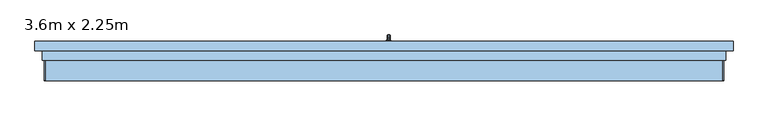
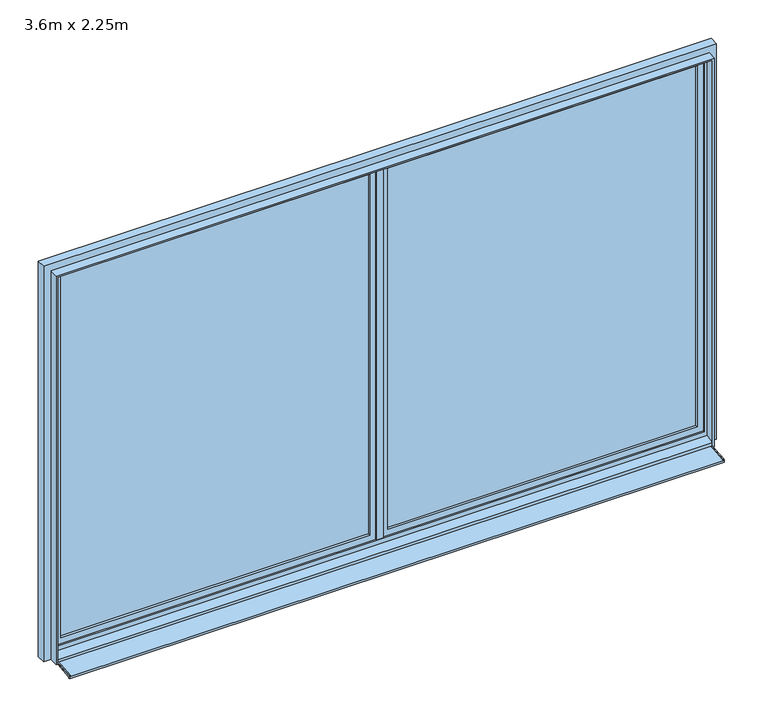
"""IFC4 building model written with IfcOpenShell, lengths in millimetres: window geometry, PF 2 Vantaux - Droits : 3.6m x 2.25m."""

from ifc_helpers import new_model, si_unit, point, frame, frame_2d, origin, place, context, project, spatial, polyline, circle_curve, trimmed, segment, composite_curve, outline, extrude, faceted_brep, source, transform, mapped, element, save


def window_3_6m_x_2_25m_d801bdb7(model_context):
    return source(origin(), model_context, "Body", "SolidModel", [
        faceted_brep([(30.6460097, 106.0, 1122.0339292), (19.3539903, 106.0, 1122.0339292), (17.9660708, 106.0, 1120.6460097), (17.9660708, 106.0, 1109.3323012), (19.3323012, 106.0, 1107.9660708), (30.6676988, 106.0, 1107.9660708), (32.0339292, 106.0, 1109.3323012), (32.0339292, 106.0, 1120.6460097), (32.0339292, 118.3386538, 1120.6460097), (30.6460097, 118.9135489, 1122.0339292), (32.0339292, 113.6523623, 1109.3323012), (32.0339292, 120.3323012, 1102.6523623), (32.0339292, 120.3323012, 1020.0), (32.0339292, 131.6460097, 1020.0), (32.0339292, 131.6460097, 1107.3386538), (30.6676988, 113.0864511, 1107.9660708), (19.3323012, 113.0864511, 1107.9660708), (17.9660708, 113.6523623, 1109.3323012), (17.9660708, 118.3386538, 1120.6460097), (17.9660708, 131.6460097, 1107.3386538), (17.9660708, 131.6460097, 1020.0), (17.9660708, 120.3323012, 1020.0), (17.9660708, 120.3323012, 1102.6523623), (19.3539903, 118.9135489, 1122.0339292), (30.6460097, 133.0339292, 1107.9135489), (30.6676988, 118.9660708, 1102.0864511), (19.3323012, 118.9660708, 1102.0864511), (19.3539903, 133.0339292, 1107.9135489), (30.6460097, 133.0339292, 1020.0), (30.6676988, 118.9660708, 1020.0), (19.3323012, 118.9660708, 1020.0), (19.3539903, 133.0339292, 1020.0)], [[[0, 1, 2, 3, 4, 5, 6, 7]], [[7, 8, 9, 0]], [[6, 10, 11, 12, 13, 14, 8, 7]], [[5, 15, 10, 6]], [[4, 16, 15, 5]], [[3, 17, 16, 4]], [[2, 18, 19, 20, 21, 22, 17, 3]], [[1, 23, 18, 2]], [[0, 9, 23, 1]], [[8, 14, 24, 9]], [[15, 25, 11, 10]], [[16, 26, 25, 15]], [[17, 22, 26, 16]], [[23, 27, 19, 18]], [[9, 24, 27, 23]], [[28, 13, 12, 29, 30, 21, 20, 31]], [[14, 13, 28, 24]], [[25, 29, 12, 11]], [[26, 30, 29, 25]], [[22, 21, 30, 26]], [[27, 31, 20, 19]], [[24, 28, 31, 27]]]),
        extrude(outline(polyline([(1140.0, 32.0), (1140.0, 18.0), (1135.0, 13.0), (1065.0, 13.0), (1060.0, 18.0), (1060.0, 32.0), (1065.0, 37.0), (1135.0, 37.0), (1140.0, 32.0)])), frame((0.0, 100.0, 0.0), z_axis=(0.0, 1.0, 0.0), x_axis=(0.0, 0.0, 1.0)), (0.0, 0.0, 1.0), 6.0),
        extrude(outline(polyline([(-110.0288776, 26.588626), (15.0, 39.7296906), (15.0, 50.0), (20.0, 50.0), (20.0, 35.0), (-105.0288776, 21.8589354), (-105.0288776, 16.0359447), (-110.0288776, 15.5104235), (-110.0288776, 26.588626)])), frame((-1800.0, 0.0, 0.0), z_axis=(1.0, 0.0, 0.0), x_axis=(0.0, 1.0, 0.0)), (0.0, 0.0, 1.0), 3600.0),
        extrude(outline(composite_curve([segment(polyline([(-110.0288776, 26.588626), (-110.0288776, 28.0145512)]), True, "CONTINUOUS"), segment(trimmed(circle_curve(frame_2d((-106.0288776, 28.0145512)), 4.0), [point((-110.0288776, 28.0145512))], [point((-106.4469915, 31.9926388))], False, "CARTESIAN"), True, "CONTINUOUS"), segment(polyline([(-106.4469915, 31.9926388), (15.0, 44.757232), (15.0, 39.7296906), (-110.0288776, 26.588626)]), True, "CONTINUOUS")], self_intersect=False)), frame((-1800.0, 0.0, 0.0), z_axis=(1.0, 0.0, 0.0), x_axis=(0.0, 1.0, 0.0)), (0.0, 0.0, 1.0), 5.0),
        extrude(outline(composite_curve([segment(polyline([(-110.0288776, 26.588626), (-110.0288776, 28.0145512)]), True, "CONTINUOUS"), segment(trimmed(circle_curve(frame_2d((-106.0288776, 28.0145512)), 4.0), [point((-110.0288776, 28.0145512))], [point((-106.4469915, 31.9926388))], False, "CARTESIAN"), True, "CONTINUOUS"), segment(polyline([(-106.4469915, 31.9926388), (15.0, 44.757232), (15.0, 39.7296906), (-110.0288776, 26.588626)]), True, "CONTINUOUS")], self_intersect=False)), frame((1795.0, 0.0, 0.0), z_axis=(1.0, 0.0, 0.0), x_axis=(0.0, 1.0, 0.0)), (0.0, 0.0, 1.0), 5.0),
        extrude(outline(polyline([(85.0, -1800.0), (85.0, 0.0), (2285.0, 0.0), (2285.0, -1800.0), (85.0, -1800.0)]), holes=[polyline([(135.0, -50.0), (135.0, -1750.0), (2235.0, -1750.0), (2235.0, -50.0), (135.0, -50.0)])]), frame((0.0, 60.0, 0.0), z_axis=(0.0, 1.0, 0.0), x_axis=(0.0, 0.0, 1.0)), (0.0, 0.0, 1.0), 40.0),
        extrude(outline(polyline([(50.0, 74.0), (50.0, 86.0), (1750.0, 86.0), (1750.0, 74.0), (50.0, 74.0)])), frame((0.0, 0.0, 135.0), z_axis=(0.0, 0.0, 1.0), x_axis=(1.0, 0.0, 0.0)), (0.0, 0.0, 1.0), 2100.0),
        extrude(outline(polyline([(-1750.0, 74.0), (-1750.0, 86.0), (-50.0, 86.0), (-50.0, 74.0), (-1750.0, 74.0)])), frame((0.0, 0.0, 135.0), z_axis=(0.0, 0.0, 1.0), x_axis=(1.0, 0.0, 0.0)), (0.0, 0.0, 1.0), 2100.0),
        extrude(outline(polyline([(85.0, 0.0), (85.0, 1800.0), (2285.0, 1800.0), (2285.0, 0.0), (85.0, 0.0)]), holes=[polyline([(135.0, 1750.0), (135.0, 50.0), (2235.0, 50.0), (2235.0, 1750.0), (135.0, 1750.0)])]), frame((0.0, 60.0, 0.0), z_axis=(0.0, 1.0, 0.0), x_axis=(0.0, 0.0, 1.0)), (0.0, 0.0, 1.0), 40.0),
        extrude(outline(polyline([(35.0, -1800.0), (2285.0, -1800.0), (2285.0, 1800.0), (35.0, 1800.0), (35.0, 1810.0), (2295.0, 1810.0), (2295.0, -1810.0), (35.0, -1810.0), (35.0, -1800.0)])), frame((0.0, 0.0, 0.0), z_axis=(0.0, 1.0, 0.0), x_axis=(0.0, 0.0, 1.0)), (0.0, 0.0, 1.0), 50.0),
        faceted_brep([(-1850.0, 100.0, 35.0), (1850.0, 100.0, 35.0), (1850.0, 50.0, 35.0), (1800.0, 50.0, 35.0), (1800.0, 20.0, 35.0), (-1800.0, 20.0, 35.0), (-1800.0, 50.0, 35.0), (-1850.0, 50.0, 35.0), (-1850.0, 50.0, 2335.0), (-1850.0, 100.0, 2335.0), (-1800.0, 50.0, 74.3761425), (1800.0, 50.0, 74.3761425), (1850.0, 50.0, 2335.0), (-1785.0, 50.0, 2270.0), (1785.0, 50.0, 2270.0), (1785.0, 50.0, 100.0), (-1785.0, 50.0, 100.0), (-1800.0, 20.0, 50.0), (-1800.0, 10.0, 50.0), (-1800.0, 10.0, 45.0), (-1800.0, 0.0, 45.0), (-1800.0, 0.0, 60.9786829), (1800.0, 20.0, 50.0), (1800.0, 0.0, 60.9786829), (1800.0, 0.0, 45.0), (1800.0, 10.0, 45.0), (1800.0, 10.0, 50.0), (1850.0, 100.0, 2335.0), (1800.0, 100.0, 2285.0), (-1800.0, 100.0, 2285.0), (-1800.0, 100.0, 85.0), (1800.0, 100.0, 85.0), (-1785.0, 60.0, 100.0), (-1785.0, 60.0, 2270.0), (1785.0, 60.0, 100.0), (1785.0, 60.0, 2270.0), (1800.0, 60.0, 2285.0), (1800.0, 60.0, 85.0), (-1800.0, 60.0, 85.0), (-1800.0, 60.0, 2285.0)], [[[0, 1, 2, 3, 4, 5, 6, 7]], [[7, 8, 9, 0]], [[7, 6, 10, 11, 3, 2, 12, 8], [13, 14, 15, 16]], [[10, 6, 5, 17, 18, 19, 20, 21]], [[5, 4, 22, 17]], [[4, 3, 11, 23, 24, 25, 26, 22]], [[2, 1, 27, 12]], [[0, 9, 27, 1], [28, 29, 30, 31]], [[13, 16, 32, 33]], [[32, 16, 15, 34]], [[35, 34, 15, 14]], [[21, 23, 11, 10]], [[36, 37, 38, 39], [33, 32, 34, 35]], [[38, 30, 29, 39]], [[30, 38, 37, 31]], [[28, 31, 37, 36]], [[20, 24, 23, 21]], [[19, 25, 24, 20]], [[18, 26, 25, 19]], [[17, 22, 26, 18]], [[12, 27, 9, 8]], [[13, 33, 35, 14]], [[39, 29, 28, 36]]]),
        extrude(outline(polyline([(20.0, 52.0), (-20.0, 52.0), (-20.0, 60.0), (20.0, 60.0), (20.0, 52.0)])), frame((0.0, 0.0, 100.0), z_axis=(0.0, 0.0, 1.0), x_axis=(1.0, 0.0, 0.0)), (0.0, 0.0, 1.0), 2170.0),
    ])


if __name__ == "__main__":
    model = new_model("IFC4")
    model_context = context("Model", 3, world=origin())
    ifc_project = project(units=[si_unit("LENGTHUNIT", "METRE", prefix="MILLI")], contexts=[model_context])
    site = spatial("IfcSite", under=ifc_project)
    building = spatial("IfcBuilding", under=site)
    placement = place(None, origin())
    window_3_6m_x_2_25m_shape = window_3_6m_x_2_25m_d801bdb7(model_context)
    element("IfcWindow", 1, ObjectType="PF 2 Vantaux - Droits : 3.6m x 2.25m", at=placement, inside=building, context=model_context, shape_type="MappedRepresentation", body=[
        mapped(window_3_6m_x_2_25m_shape, transform((0.0, 0.0, 0.0), x_axis=(1.0, 0.0, 0.0), y_axis=(0.0, 1.0, 0.0), z_axis=(0.0, 0.0, 1.0))),
    ])
    save(model, "model.ifc")
